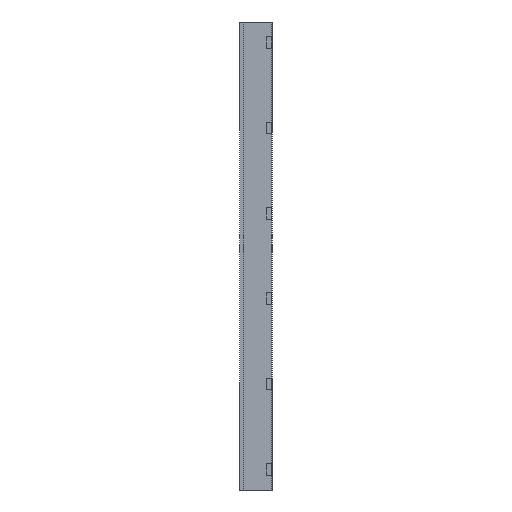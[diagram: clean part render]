
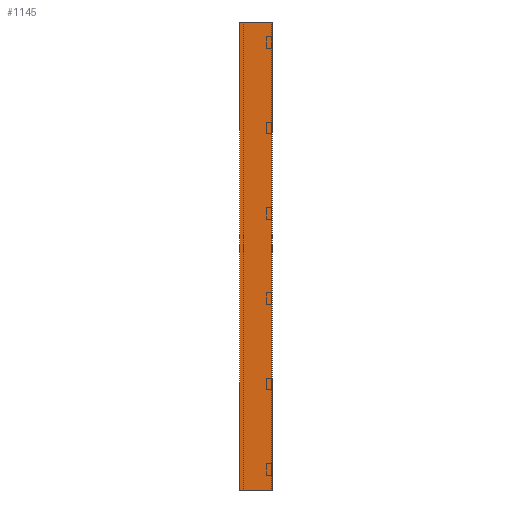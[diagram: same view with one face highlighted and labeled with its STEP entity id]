
A CAD part, left-side view. The second image highlights one B-rep face of the part: STEP entity #1145.
In plain terms, the highlighted planar face has unit normal (-1, 0, 0).
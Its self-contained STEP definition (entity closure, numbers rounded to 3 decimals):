
#23 = PLANE ( 'NONE',  #1149 ) ;
#61 = VECTOR ( 'NONE', #1187, 1000. ) ;
#78 = VERTEX_POINT ( 'NONE', #1003 ) ;
#119 = LINE ( 'NONE', #935, #61 ) ;
#130 = VERTEX_POINT ( 'NONE', #486 ) ;
#146 = VECTOR ( 'NONE', #1596, 1000. ) ;
#281 = LINE ( 'NONE', #681, #806 ) ;
#305 = ORIENTED_EDGE ( 'NONE', *, *, #991, .F. ) ;
#314 = CARTESIAN_POINT ( 'NONE',  ( 0., 112.5, 0. ) ) ;
#395 = VERTEX_POINT ( 'NONE', #314 ) ;
#431 = DIRECTION ( 'NONE',  ( -1., 0., 0. ) ) ;
#440 = LINE ( 'NONE', #1078, #146 ) ;
#486 = CARTESIAN_POINT ( 'NONE',  ( 0., 112.5, -1600. ) ) ;
#553 = VECTOR ( 'NONE', #776, 1000. ) ;
#557 = CARTESIAN_POINT ( 'NONE',  ( 0., 0., -1600. ) ) ;
#559 = ORIENTED_EDGE ( 'NONE', *, *, #613, .F. ) ;
#613 = EDGE_CURVE ( 'NONE', #395, #78, #281, .T. ) ;
#681 = CARTESIAN_POINT ( 'NONE',  ( 0., 0., 0. ) ) ;
#761 = EDGE_LOOP ( 'NONE', ( #559, #305, #1222, #1244 ) ) ;
#776 = DIRECTION ( 'NONE',  ( 0., 0., 1. ) ) ;
#806 = VECTOR ( 'NONE', #1173, 1000. ) ;
#935 = CARTESIAN_POINT ( 'NONE',  ( 0., 0., -1600. ) ) ;
#991 = EDGE_CURVE ( 'NONE', #130, #395, #1304, .T. ) ;
#1003 = CARTESIAN_POINT ( 'NONE',  ( 0., 0., 0. ) ) ;
#1058 = EDGE_CURVE ( 'NONE', #130, #1372, #119, .T. ) ;
#1069 = DIRECTION ( 'NONE',  ( 0., 0., 1. ) ) ;
#1078 = CARTESIAN_POINT ( 'NONE',  ( 0., 0., -1600. ) ) ;
#1094 = FACE_OUTER_BOUND ( 'NONE', #761, .T. ) ;
#1145 = ADVANCED_FACE ( 'NONE', ( #1094 ), #23, .T. ) ;
#1149 = AXIS2_PLACEMENT_3D ( 'NONE', #557, #431, #1069 ) ;
#1169 = EDGE_CURVE ( 'NONE', #1372, #78, #440, .T. ) ;
#1173 = DIRECTION ( 'NONE',  ( 0., -1., 0. ) ) ;
#1187 = DIRECTION ( 'NONE',  ( 0., -1., 0. ) ) ;
#1222 = ORIENTED_EDGE ( 'NONE', *, *, #1058, .T. ) ;
#1244 = ORIENTED_EDGE ( 'NONE', *, *, #1169, .T. ) ;
#1267 = CARTESIAN_POINT ( 'NONE',  ( 0., 0., -1600. ) ) ;
#1304 = LINE ( 'NONE', #1549, #553 ) ;
#1372 = VERTEX_POINT ( 'NONE', #1267 ) ;
#1549 = CARTESIAN_POINT ( 'NONE',  ( 0., 112.5, -1600. ) ) ;
#1596 = DIRECTION ( 'NONE',  ( 0., 0., 1. ) ) ;
